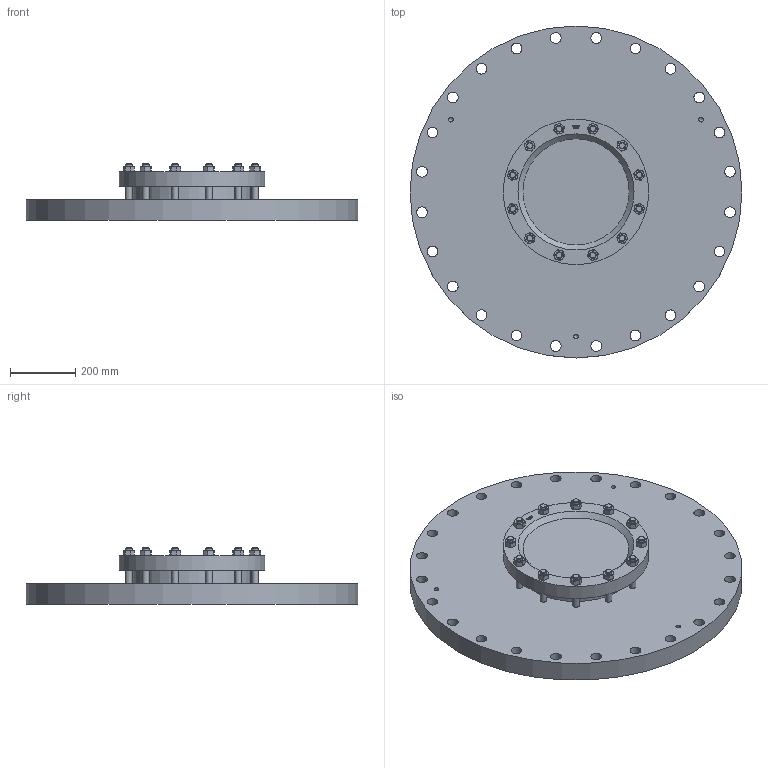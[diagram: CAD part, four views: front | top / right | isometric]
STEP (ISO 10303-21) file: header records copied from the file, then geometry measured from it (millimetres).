
FILE_DESCRIPTION(/* description */ (''),/* implementation_level */ '2;1');
FILE_NAME(/* name */ 'W:\Konstruktion_ACI\325\_STEP\325-800-10.stp',/* time_stamp */ '2022-03-02T17:31:27+01:00',/* author */ ('koslowksi'),/* organization */ (''),/* preprocessor_version */ 'ST-DEVELOPER v16.1',/* originating_system */ 'Autodesk Inventor 2016',/* authorisation */ '');
FILE_SCHEMA (('AUTOMOTIVE_DESIGN { 1 0 10303 214 3 1 1 }'));
Length unit declared in the file: millimetre
Products named in the file (1): 325-800-10
Bounding box: 1015 x 1015 x 173 mm (x, y, z)
Volume: 59783635 mm3; surface area: 2213825.4 mm2
Topology: 1 solids, 1 shells, 553 faces, 1392 edges, 887 vertices
Faces by surface type: plane 231, cone 160, bspline 108, cylinder 54
Full cylindrical faces by diameter (mm): 13.835 x3, 20 x24, 33 x24, 359 x1, 445 x1, 1015 x1
Entity records: 16694 total; most frequent: CARTESIAN_POINT 4665, ORIENTED_EDGE 2566, DIRECTION 1937, EDGE_CURVE 1283, VERTEX_POINT 848, EDGE_LOOP 741, AXIS2_PLACEMENT_3D 712, FACE_OUTER_BOUND 553
